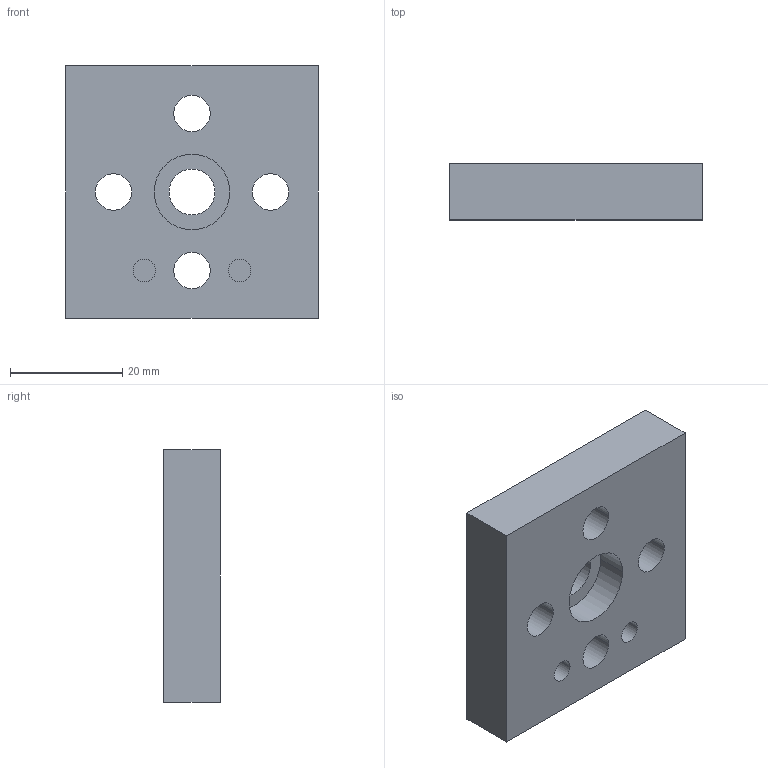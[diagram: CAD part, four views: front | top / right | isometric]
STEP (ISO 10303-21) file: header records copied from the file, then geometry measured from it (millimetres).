
FILE_DESCRIPTION((''),'2;1');
FILE_NAME('GIF0100','2002-12-27T',('Lipro doo'),('Lipro d.o.o.'),'PRO/ENGINEER BY PARAMETRIC TECHNOLOGY CORPORATION, 2001150','PRO/ENGINEER BY PARAMETRIC TECHNOLOGY CORPORATION, 2001150','');
FILE_SCHEMA(('CONFIG_CONTROL_DESIGN'));
Length unit declared in the file: millimetre
Products named in the file (1): GIF0100
Bounding box: 45 x 10 x 45 mm (x, y, z)
Volume: 15769.5 mm3; surface area: 7554.4 mm2
Topology: 1 solids, 1 shells, 73 faces, 180 edges, 120 vertices
Faces by surface type: cylinder 40, plane 33
Entity records: 2252 total; most frequent: DIRECTION 406, CARTESIAN_POINT 373, ORIENTED_EDGE 360, EDGE_CURVE 180, AXIS2_PLACEMENT_3D 153, VERTEX_POINT 120, VECTOR 100, LINE 100
